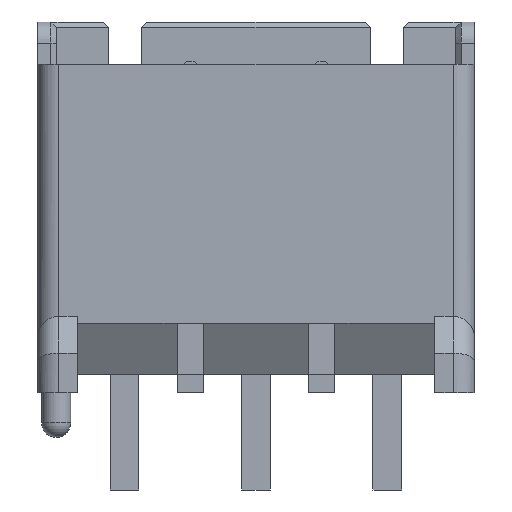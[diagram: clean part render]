
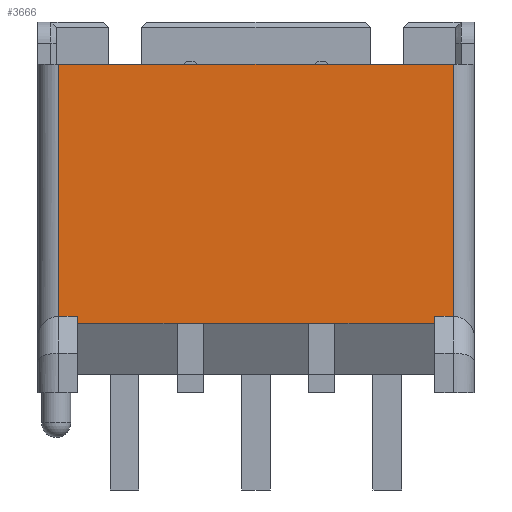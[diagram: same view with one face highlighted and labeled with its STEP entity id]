
A CAD part, front view. The second image highlights one B-rep face of the part: STEP entity #3666.
In plain terms, the highlighted planar face has unit normal (0, -1, 0).
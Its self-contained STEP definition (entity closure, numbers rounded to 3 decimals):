
#592=DIRECTION('',(0.,0.,-1.));
#593=VECTOR('',#592,0.25);
#594=CARTESIAN_POINT('',(-6.8,-3.5,-11.2));
#595=LINE('',#594,#593);
#720=DIRECTION('',(-1.,0.,0.));
#721=VECTOR('',#720,1.);
#722=CARTESIAN_POINT('',(3.,-3.5,-11.45));
#723=LINE('',#722,#721);
#724=DIRECTION('',(1.,0.,0.));
#725=VECTOR('',#724,4.);
#726=CARTESIAN_POINT('',(-2.,-3.5,-11.45));
#727=LINE('',#726,#725);
#728=DIRECTION('',(-1.,0.,0.));
#729=VECTOR('',#728,1.);
#730=CARTESIAN_POINT('',(-2.,-3.5,-11.45));
#731=LINE('',#730,#729);
#732=DIRECTION('',(1.,0.,0.));
#733=VECTOR('',#732,3.8);
#734=CARTESIAN_POINT('',(-6.8,-3.5,-11.45));
#735=LINE('',#734,#733);
#736=DIRECTION('',(-1.,0.,0.));
#737=VECTOR('',#736,0.7);
#738=CARTESIAN_POINT('',(-6.8,-3.5,-11.2));
#739=LINE('',#738,#737);
#740=DIRECTION('',(0.,0.,1.));
#741=VECTOR('',#740,9.6);
#742=CARTESIAN_POINT('',(-7.5,-3.5,-11.2));
#743=LINE('',#742,#741);
#744=DIRECTION('',(0.,0.,-1.));
#745=VECTOR('',#744,9.6);
#746=CARTESIAN_POINT('',(7.5,-3.5,-1.6));
#747=LINE('',#746,#745);
#748=DIRECTION('',(-1.,0.,0.));
#749=VECTOR('',#748,0.7);
#750=CARTESIAN_POINT('',(7.5,-3.5,-11.2));
#751=LINE('',#750,#749);
#752=DIRECTION('',(0.,0.,-1.));
#753=VECTOR('',#752,0.25);
#754=CARTESIAN_POINT('',(6.8,-3.5,-11.2));
#755=LINE('',#754,#753);
#756=DIRECTION('',(1.,0.,0.));
#757=VECTOR('',#756,3.8);
#758=CARTESIAN_POINT('',(3.,-3.5,-11.45));
#759=LINE('',#758,#757);
#906=DIRECTION('',(-1.,0.,0.));
#907=VECTOR('',#906,15.);
#908=CARTESIAN_POINT('',(7.5,-3.5,-1.6));
#909=LINE('',#908,#907);
#1923=CARTESIAN_POINT('',(7.5,-3.5,-11.2));
#2454=VERTEX_POINT('',#1923);
#2472=CARTESIAN_POINT('',(7.5,-3.5,-1.6));
#2473=VERTEX_POINT('',#2472);
#2477=CARTESIAN_POINT('',(-7.5,-3.5,-1.6));
#2479=VERTEX_POINT('',#2477);
#2480=CARTESIAN_POINT('',(-7.5,-3.5,-11.2));
#2481=VERTEX_POINT('',#2480);
#2516=CARTESIAN_POINT('',(6.8,-3.5,-11.2));
#2517=VERTEX_POINT('',#2516);
#2518=CARTESIAN_POINT('',(-6.8,-3.5,-11.2));
#2519=VERTEX_POINT('',#2518);
#2698=CARTESIAN_POINT('',(6.8,-3.5,-11.45));
#2699=VERTEX_POINT('',#2698);
#2700=CARTESIAN_POINT('',(-6.8,-3.5,-11.45));
#2701=VERTEX_POINT('',#2700);
#2798=CARTESIAN_POINT('',(3.,-3.5,-11.45));
#2799=CARTESIAN_POINT('',(2.,-3.5,-11.45));
#2800=VERTEX_POINT('',#2798);
#2801=VERTEX_POINT('',#2799);
#2802=CARTESIAN_POINT('',(-2.,-3.5,-11.45));
#2803=CARTESIAN_POINT('',(-3.,-3.5,-11.45));
#2804=VERTEX_POINT('',#2802);
#2805=VERTEX_POINT('',#2803);
#3642=CARTESIAN_POINT('',(8.3,-3.5,-11.2));
#3643=DIRECTION('',(0.,-1.,0.));
#3644=DIRECTION('',(0.,0.,1.));
#3645=AXIS2_PLACEMENT_3D('',#3642,#3643,#3644);
#3646=PLANE('',#3645);
#3647=ORIENTED_EDGE('',*,*,#3616,.T.);
#3648=ORIENTED_EDGE('',*,*,#3564,.F.);
#3649=ORIENTED_EDGE('',*,*,#3631,.T.);
#3650=ORIENTED_EDGE('',*,*,#3592,.F.);
#3651=ORIENTED_EDGE('',*,*,#3473,.F.);
#3653=ORIENTED_EDGE('',*,*,#3652,.T.);
#3655=ORIENTED_EDGE('',*,*,#3654,.T.);
#3657=ORIENTED_EDGE('',*,*,#3656,.F.);
#3659=ORIENTED_EDGE('',*,*,#3658,.T.);
#3661=ORIENTED_EDGE('',*,*,#3660,.T.);
#3662=ORIENTED_EDGE('',*,*,#3542,.T.);
#3663=ORIENTED_EDGE('',*,*,#3576,.F.);
#3664=EDGE_LOOP('',(#3647,#3648,#3649,#3650,#3651,#3653,#3655,#3657,#3659,#3661,
#3662,#3663));
#3665=FACE_OUTER_BOUND('',#3664,.F.);
#3473=EDGE_CURVE('',#2519,#2701,#595,.T.);
#3542=EDGE_CURVE('',#2517,#2699,#755,.T.);
#3564=EDGE_CURVE('',#2804,#2801,#727,.T.);
#3576=EDGE_CURVE('',#2800,#2699,#759,.T.);
#3592=EDGE_CURVE('',#2701,#2805,#735,.T.);
#3616=EDGE_CURVE('',#2800,#2801,#723,.T.);
#3631=EDGE_CURVE('',#2804,#2805,#731,.T.);
#3652=EDGE_CURVE('',#2519,#2481,#739,.T.);
#3654=EDGE_CURVE('',#2481,#2479,#743,.T.);
#3656=EDGE_CURVE('',#2473,#2479,#909,.T.);
#3658=EDGE_CURVE('',#2473,#2454,#747,.T.);
#3660=EDGE_CURVE('',#2454,#2517,#751,.T.);
#3666=ADVANCED_FACE('',(#3665),#3646,.T.);
